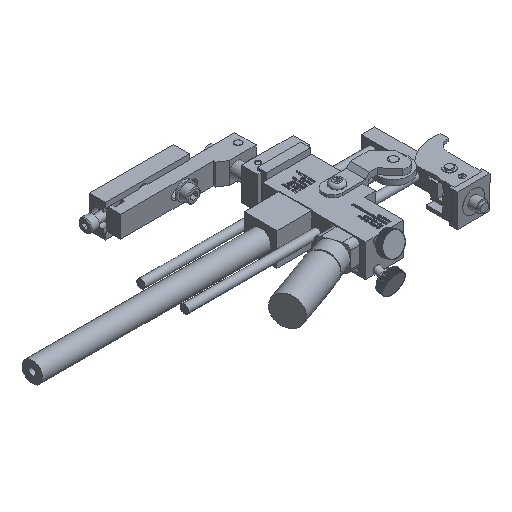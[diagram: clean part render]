
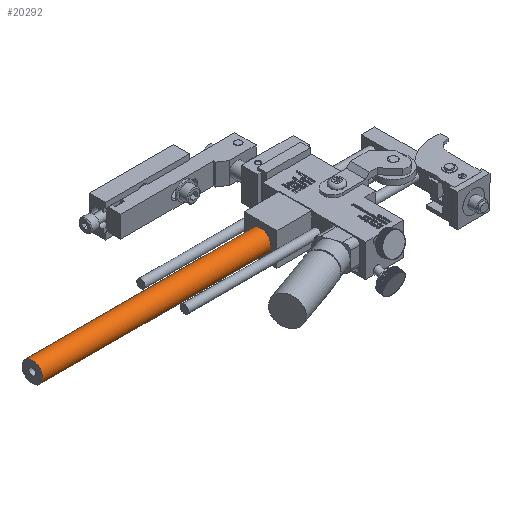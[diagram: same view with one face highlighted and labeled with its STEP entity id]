
A CAD part, isometric view. The second image highlights one B-rep face of the part: STEP entity #20292.
In plain terms, the highlighted cylindrical face has radius 5.969 mm (diameter 11.938 mm), a full revolution.
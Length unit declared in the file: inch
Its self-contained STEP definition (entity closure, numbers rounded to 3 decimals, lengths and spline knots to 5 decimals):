
#20265=CARTESIAN_POINT('',(-1.4815,0.8125,0.375));
#20266=DIRECTION('',(-1.0,0.,0.));
#20267=DIRECTION('',(0.0,0.0,-1.0));
#20268=AXIS2_PLACEMENT_3D('',#20265,#20266,#20267);
#20269=CYLINDRICAL_SURFACE('',#20268,0.235);
#20270=CARTESIAN_POINT('',(-6.7315,0.8125,0.61));
#20271=VERTEX_POINT('',#20270);
#20272=CARTESIAN_POINT('',(-6.7315,0.8125,0.375));
#20273=DIRECTION('',(1.0,0.0,0.0));
#20274=DIRECTION('',(0.0,0.0,-1.0));
#20275=AXIS2_PLACEMENT_3D('',#20272,#20273,#20274);
#20276=CIRCLE('',#20275,0.235);
#20277=EDGE_CURVE('',#20271,#20271,#20276,.T.);
#20278=ORIENTED_EDGE('',*,*,#20277,.T.);
#20279=EDGE_LOOP('',(#20278));
#20280=FACE_OUTER_BOUND('',#20279,.T.);
#20281=CARTESIAN_POINT('',(-1.4815,0.8125,0.61));
#20282=VERTEX_POINT('',#20281);
#20283=CARTESIAN_POINT('',(-1.4815,0.8125,0.375));
#20284=DIRECTION('',(1.0,0.0,0.0));
#20285=DIRECTION('',(0.0,0.0,-1.0));
#20286=AXIS2_PLACEMENT_3D('',#20283,#20284,#20285);
#20287=CIRCLE('',#20286,0.235);
#20288=EDGE_CURVE('',#20282,#20282,#20287,.T.);
#20289=ORIENTED_EDGE('',*,*,#20288,.F.);
#20290=EDGE_LOOP('',(#20289));
#20291=FACE_BOUND('',#20290,.T.);
#20292=ADVANCED_FACE('',(#20280,#20291),#20269,.T.);
